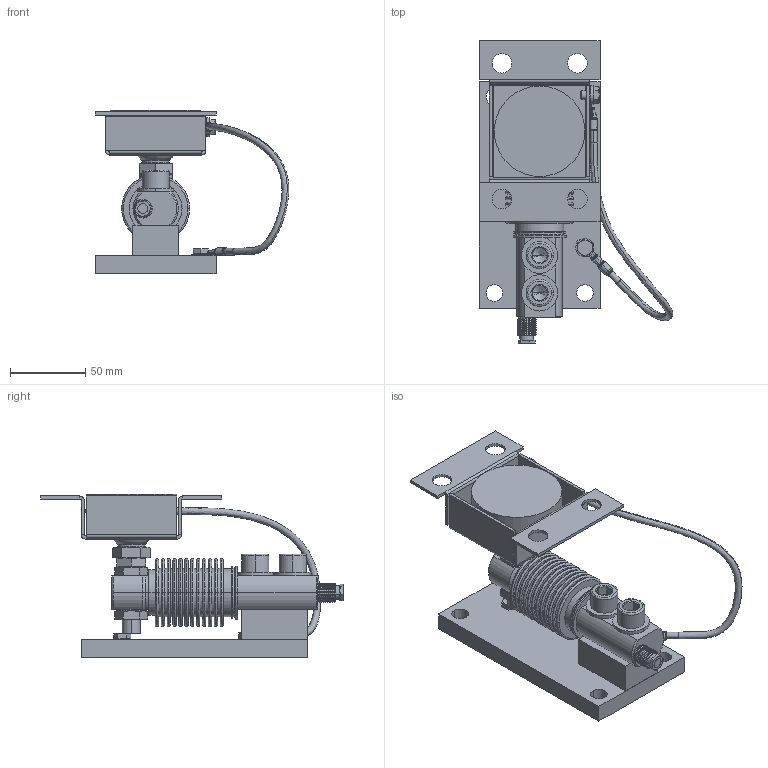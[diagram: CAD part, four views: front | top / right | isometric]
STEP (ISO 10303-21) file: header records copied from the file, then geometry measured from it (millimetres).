
FILE_DESCRIPTION((''),'1');
FILE_NAME('LMLAF_standard.step','2020-06-29T10:41:41',(''),(''),'','','');
FILE_SCHEMA(('AUTOMOTIVE_DESIGN { 1 0 10303 214 1 1 1 1 }'));
Products named in the file (25): LMLAF part 01; LMLAF part 03; LMLAF part 05; LMLAF cable 01; LMLAF part 06; LMLAF cable 02; LMLAF standard; LMLAF screw 01; LMLAF screw 02; LMLAF part 07; LMLAF part 08; LMLAF nut 01; LMLAF part 09; LMLAF base 01; LMLAF nut 03; LMLAF screw 03; LMLAF screw 04; LMLAF load cell 01; LMLAF body 01; LMLAF cable gland 01; LMLAF screw 05; LMLAF part 10; LMLAF screw 06; LMLAF part 11
Assembly tree (31 placements, depth 4):
  LMLAF standard
    LMLAF part 06
      LMLAF part 01
        LMLAF part 03
        LMLAF part 05
        LMLAF cable 01
      LMLAF cable 02
      LMLAF part 01
        LMLAF part 03
        LMLAF part 05
        LMLAF cable 01
    LMLAF screw 01  x2
    LMLAF screw 02
    LMLAF part 07
    LMLAF part 08
      LMLAF nut 01
      LMLAF part 09
      LMLAF base 01
    LMLAF nut 03  x2
    LMLAF screw 03  x2
    LMLAF screw 04  x2
    LMLAF load cell 01
      LMLAF body 01
      LMLAF cable gland 01
    LMLAF screw 05
    LMLAF part 10
    LMLAF screw 06
    LMLAF part 11
Bounding box: 128.19 x 200.38 x 108 mm (x, y, z)
Volume: 391934.2 mm3; surface area: 146175.9 mm2
Topology: 26 solids, 32 shells, 1031 faces, 2448 edges, 1505 vertices
Faces by surface type: plane 322, cylinder 292, cone 218, torus 114, bspline 80, extrusion 4, revolution 1
Entity records: 33037 total; most frequent: CARTESIAN_POINT 13836, DIRECTION 4116, ORIENTED_EDGE 3714, EDGE_CURVE 1869, AXIS2_PLACEMENT_3D 1691, VERTEX_POINT 1154, CIRCLE 900, EDGE_LOOP 895
